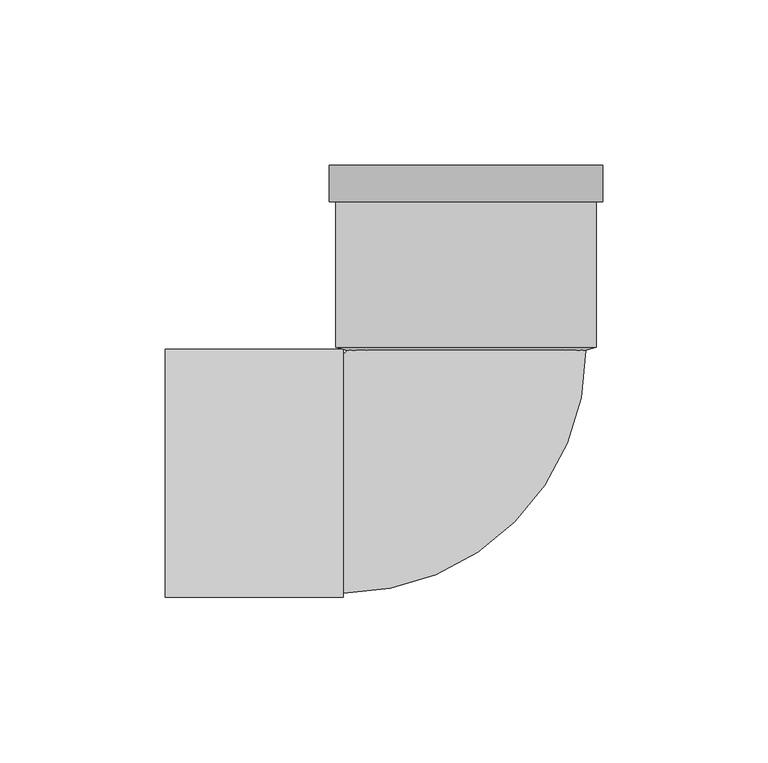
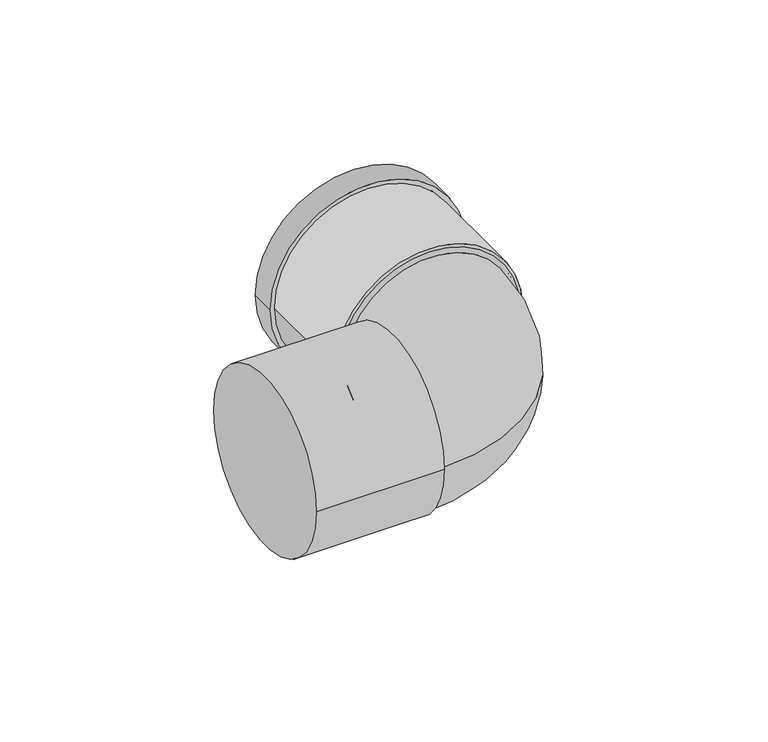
"""IFC4 building model written with IfcOpenShell, lengths in millimetres: pipe fitting geometry, Superdrain HT bend : Superdrain HT Bend."""

from ifc_helpers import new_model, si_unit, point, frame, origin, origin_2d, place, context, project, spatial, polyline, circle_curve, ellipse_curve, trimmed, segment, composite_curve, outline, extrude, source, transform, mapped, element, save
from ifc_brep_helpers import plane_surface, revolved_surface, advanced_brep


def pipe_fitting_19b4c73e(model_context):
    return source(origin(), model_context, "Body", "SolidModel", [
        advanced_brep(
        [(36.2, 37.2, 0.0), (-36.2, 37.2, 0.0), (-37.2, -36.2, 0.0), (-37.2, 36.2, 0.0)],
        [
            (0, 1, circle_curve(frame((0.0, 37.2, 0.0), z_axis=(0.0, 1.0, 0.0), x_axis=(-1.0, 0.0, 0.0)), 36.2)),
            (1, 0, circle_curve(frame((0.0, 37.2, 0.0), z_axis=(0.0, 1.0, 0.0), x_axis=(-1.0, 0.0, 0.0)), 36.2)),
            (2, 3, circle_curve(frame((-37.2, 0.0, 0.0), z_axis=(-1.0, 0.0, 0.0), x_axis=(0.0, 1.0, 0.0)), 36.2)),
            (3, 2, circle_curve(frame((-37.2, 0.0, 0.0), z_axis=(-1.0, 0.0, 0.0), x_axis=(0.0, 1.0, 0.0)), 36.2)),
            (3, 1, circle_curve(frame((-37.2, 37.2, 0.0), z_axis=(0.0, 0.0, 1.0), x_axis=(1.0, 0.0, 0.0)), 1.0)),
            (0, 2, circle_curve(frame((-37.2, 37.2, 0.0), z_axis=(0.0, 0.0, -1.0), x_axis=(1.0, 0.0, 0.0)), 73.4)),
        ],
        [
            plane_surface(frame((0.0, 37.2, 0.0), z_axis=(0.0, 1.0, 0.0), x_axis=(0.0, 0.0, -1.0))),
            plane_surface(frame((-37.2, 0.0, 0.0), z_axis=(-1.0, 0.0, 0.0), x_axis=(0.0, 0.0, -1.0))),
            revolved_surface(trimmed(ellipse_curve(frame((0.0, 37.2, 0.0), z_axis=(0.0, -1.0, 0.0), x_axis=(-1.0, 0.0, 0.0)), 36.2, 36.2), [point((-36.2, 37.2, 0.0))], [point((36.2, 37.2, 0.0))], True, "CARTESIAN"), (-37.2, 37.2, 0.0), (0.0, 0.0, 1.0)),
            revolved_surface(trimmed(ellipse_curve(frame((0.0, 37.2, 0.0), z_axis=(0.0, -1.0, 0.0), x_axis=(-1.0, 0.0, 0.0)), 36.2, 36.2), [point((36.2, 37.2, 0.0))], [point((-36.2, 37.2, 0.0))], True, "CARTESIAN"), (-37.2, 37.2, 0.0), (0.0, 0.0, 1.0)),
        ],
        [
            (0, [[1, 2]]),
            (1, [[3, 4]]),
            (2, [[-4, 5, -1, 6]]),
            (3, [[-3, -6, -2, -5]]),
        ],
    ),
        extrude(outline(composite_curve([segment(trimmed(circle_curve(origin_2d(), 39.375), [point((0.0, 39.375))], [point((0.0, -39.375))], False, "CARTESIAN"), True, "CONTINUOUS"), segment(trimmed(circle_curve(origin_2d(), 39.375), [point((0.0, -39.375))], [point((0.0, 39.375))], False, "CARTESIAN"), True, "CONTINUOUS")], self_intersect=False), holes=[composite_curve([segment(trimmed(circle_curve(origin_2d(), 37.5), [point((0.0, 37.5))], [point((0.0, -37.5))], True, "CARTESIAN"), True, "CONTINUOUS"), segment(trimmed(circle_curve(origin_2d(), 37.5), [point((0.0, -37.5))], [point((0.0, 37.5))], True, "CARTESIAN"), True, "CONTINUOUS")], self_intersect=False)]), frame((0.0, 38.2, 0.0), z_axis=(0.0, 1.0, 0.0), x_axis=(0.0, 0.0, 1.0)), (0.0, 0.0, 1.0), 55.0),
        extrude(outline(composite_curve([segment(trimmed(circle_curve(origin_2d(), 41.34375), [point((0.0, -41.34375))], [point((0.0, 41.34375))], False, "CARTESIAN"), True, "CONTINUOUS"), segment(trimmed(circle_curve(origin_2d(), 41.34375), [point((0.0, 41.34375))], [point((0.0, -41.34375))], False, "CARTESIAN"), True, "CONTINUOUS")], self_intersect=False), holes=[composite_curve([segment(trimmed(circle_curve(origin_2d(), 37.5), [point((0.0, -37.5))], [point((0.0, 37.5))], True, "CARTESIAN"), True, "CONTINUOUS"), segment(trimmed(circle_curve(origin_2d(), 37.5), [point((0.0, 37.5))], [point((0.0, -37.5))], True, "CARTESIAN"), True, "CONTINUOUS")], self_intersect=False)]), frame((0.0, 82.2, 0.0), z_axis=(0.0, 1.0, 0.0), x_axis=(0.0, 0.0, 1.0)), (0.0, 0.0, 1.0), 11.0),
        advanced_brep(
        [(39.375, 38.2, 0.0), (-39.375, 38.2, 0.0), (36.2, 37.2, 0.0), (-36.2, 37.2, 0.0)],
        [
            (0, 1, circle_curve(frame((0.0, 38.2, 0.0), z_axis=(0.0, 1.0, 0.0), x_axis=(1.0, 0.0, 0.0)), 39.375)),
            (1, 0, circle_curve(frame((0.0, 38.2, 0.0), z_axis=(0.0, 1.0, 0.0), x_axis=(-1.0, 0.0, 0.0)), 39.375)),
            (2, 3, circle_curve(frame((0.0, 37.2, 0.0), z_axis=(0.0, -1.0, 0.0), x_axis=(-1.0, 0.0, 0.0)), 36.2)),
            (3, 2, circle_curve(frame((0.0, 37.2, 0.0), z_axis=(0.0, -1.0, 0.0), x_axis=(1.0, 0.0, 0.0)), 36.2)),
            (3, 1),
            (0, 2),
        ],
        [
            plane_surface(frame((0.0, 38.2, 0.0), z_axis=(0.0, 1.0, 0.0), x_axis=(0.0, 0.0, -1.0))),
            plane_surface(frame((0.0, 37.2, 0.0), z_axis=(0.0, -1.0, 0.0), x_axis=(0.0, 0.0, -1.0))),
            revolved_surface(polyline([(-36.19999999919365, 37.2, 0.0), (-39.375, 38.2, 0.0)]), (0.0, 25.7984252, 0.0), (0.0, 1.0, 0.0)),
            revolved_surface(polyline([(36.19999999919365, 37.2, 0.0), (39.375, 38.2, 0.0)]), (0.0, 25.7984252, 0.0), (0.0, 1.0, 0.0)),
        ],
        [
            (0, [[1, 2]]),
            (1, [[3, 4]]),
            (2, [[-4, 5, -1, 6]]),
            (3, [[-3, -6, -2, -5]]),
        ],
    ),
        extrude(outline(composite_curve([segment(trimmed(circle_curve(origin_2d(), 37.5), [point((-37.5, 0.0))], [point((37.5, 0.0))], False, "CARTESIAN"), True, "CONTINUOUS"), segment(trimmed(circle_curve(origin_2d(), 37.5), [point((37.5, 0.0))], [point((-37.5, 0.0))], False, "CARTESIAN"), True, "CONTINUOUS")], self_intersect=False)), frame((-91.0, 0.0, 0.0), z_axis=(1.0, 0.0, 0.0), x_axis=(0.0, 1.0, 0.0)), (0.0, 0.0, 1.0), 53.8),
    ])


if __name__ == "__main__":
    model = new_model("IFC4")
    model_context = context("Model", 3, world=origin())
    ifc_project = project(units=[si_unit("LENGTHUNIT", "METRE", prefix="MILLI")], contexts=[model_context])
    site = spatial("IfcSite", under=ifc_project)
    building = spatial("IfcBuilding", under=site)
    placement = place(None, origin())
    pipe_fitting_shape = pipe_fitting_19b4c73e(model_context)
    element("IfcPipeFitting", 1, ObjectType="Superdrain HT bend : Superdrain HT Bend", at=placement, inside=building, context=model_context, shape_type="MappedRepresentation", body=[
        mapped(pipe_fitting_shape, transform((0.0, 0.0, 0.0), x_axis=(1.0, 0.0, 0.0), y_axis=(0.0, 1.0, 0.0), z_axis=(0.0, 0.0, 1.0))),
    ])
    save(model, "model.ifc")
